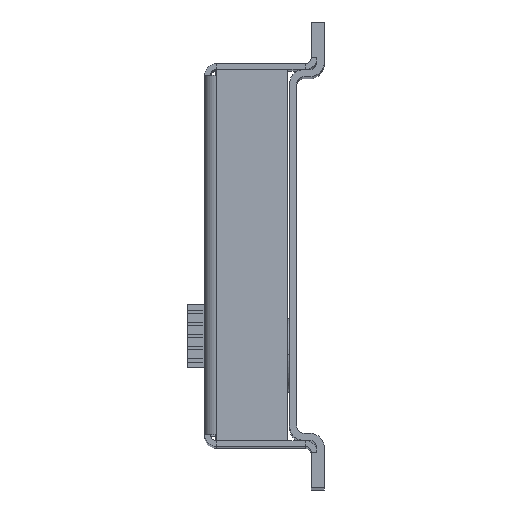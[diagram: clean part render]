
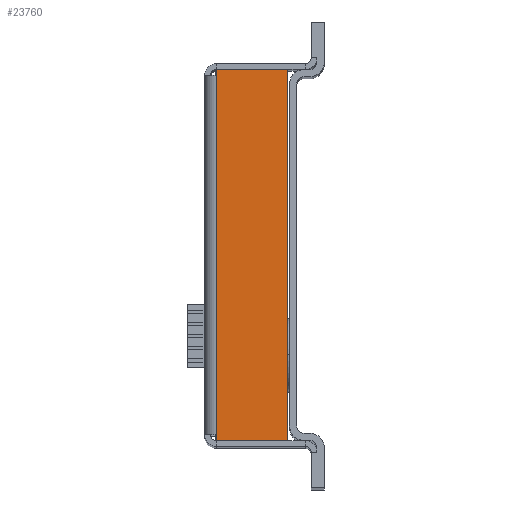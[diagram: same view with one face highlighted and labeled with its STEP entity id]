
A CAD part, top view. The second image highlights one B-rep face of the part: STEP entity #23760.
In plain terms, the highlighted planar face has unit normal (0, 0, 1).
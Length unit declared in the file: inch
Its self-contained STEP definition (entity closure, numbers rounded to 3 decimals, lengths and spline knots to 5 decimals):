
#2709=DIRECTION('',(0.,-1.,0.));
#2710=VECTOR('',#2709,3.034);
#2711=CARTESIAN_POINT('',(-0.824,3.422,0.));
#2712=LINE('',#2711,#2710);
#2741=DIRECTION('',(-1.,0.,0.));
#2742=VECTOR('',#2741,0.579);
#2743=CARTESIAN_POINT('',(-0.245,0.388,0.));
#2744=LINE('',#2743,#2742);
#2745=DIRECTION('',(1.,0.,0.));
#2746=VECTOR('',#2745,0.579);
#2747=CARTESIAN_POINT('',(-0.824,3.422,0.));
#2748=LINE('',#2747,#2746);
#2753=DIRECTION('',(0.,1.,0.));
#2754=VECTOR('',#2753,3.034);
#2755=CARTESIAN_POINT('',(-0.245,0.388,0.));
#2756=LINE('',#2755,#2754);
#17001=CARTESIAN_POINT('',(-0.824,3.422,0.));
#17002=CARTESIAN_POINT('',(-0.245,3.422,0.));
#17003=VERTEX_POINT('',#17001);
#17004=VERTEX_POINT('',#17002);
#17013=CARTESIAN_POINT('',(-0.245,0.388,0.));
#17014=CARTESIAN_POINT('',(-0.824,0.388,0.));
#17015=VERTEX_POINT('',#17013);
#17016=VERTEX_POINT('',#17014);
#23746=CARTESIAN_POINT('',(-0.92,2.67593,0.));
#23747=DIRECTION('',(0.,0.,1.));
#23748=DIRECTION('',(0.,1.,0.));
#23749=AXIS2_PLACEMENT_3D('',#23746,#23747,#23748);
#23750=PLANE('',#23749);
#23752=ORIENTED_EDGE('',*,*,#23751,.F.);
#23754=ORIENTED_EDGE('',*,*,#23753,.T.);
#23755=ORIENTED_EDGE('',*,*,#23732,.F.);
#23757=ORIENTED_EDGE('',*,*,#23756,.T.);
#23758=EDGE_LOOP('',(#23752,#23754,#23755,#23757));
#23759=FACE_OUTER_BOUND('',#23758,.F.);
#23760=ADVANCED_FACE('',(#23759),#23750,.T.);
#23732=EDGE_CURVE('',#17003,#17016,#2712,.T.);
#23751=EDGE_CURVE('',#17015,#17004,#2756,.T.);
#23753=EDGE_CURVE('',#17015,#17016,#2744,.T.);
#23756=EDGE_CURVE('',#17003,#17004,#2748,.T.);
